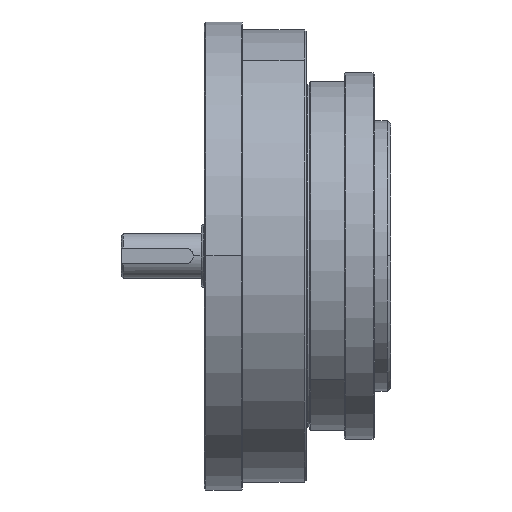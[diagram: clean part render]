
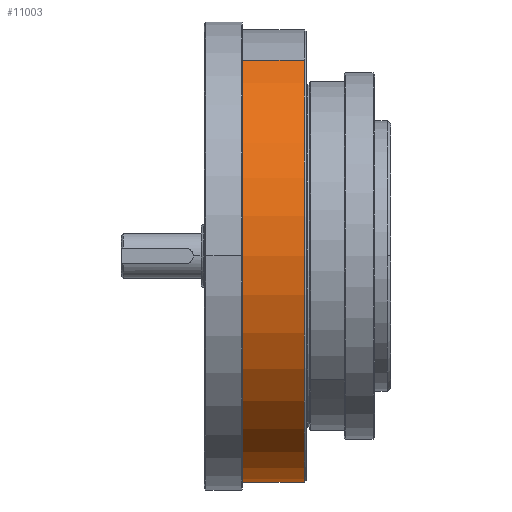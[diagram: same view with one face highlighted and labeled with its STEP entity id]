
A CAD part, top view. The second image highlights one B-rep face of the part: STEP entity #11003.
In plain terms, the highlighted cylindrical face has radius 71 mm (diameter 142 mm), a partial arc.
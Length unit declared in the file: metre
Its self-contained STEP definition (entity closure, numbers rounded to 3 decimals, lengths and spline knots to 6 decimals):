
#1798 = VERTEX_POINT ( 'NONE', #31979 ) ;
#2601 = FACE_OUTER_BOUND ( 'NONE', #51799, .T. ) ;
#5741 = CARTESIAN_POINT ( 'NONE',  ( 0.0574, 0.061488, 0.0355 ) ) ;
#6040 = VERTEX_POINT ( 'NONE', #50623 ) ;
#6907 = EDGE_CURVE ( 'NONE', #1798, #39703, #52528, .T. ) ;
#9250 = LINE ( 'NONE', #58365, #36377 ) ;
#10688 = AXIS2_PLACEMENT_3D ( 'NONE', #50117, #13222, #44772 ) ;
#11003 = ADVANCED_FACE ( 'NONE', ( #2601 ), #20199, .T. ) ;
#12044 = CARTESIAN_POINT ( 'NONE',  ( 0.0574, 0., 0. ) ) ;
#13222 = DIRECTION ( 'NONE',  ( 1., 0., 0. ) ) ;
#13553 = EDGE_CURVE ( 'NONE', #26840, #39703, #20311, .T. ) ;
#17674 = DIRECTION ( 'NONE',  ( -1., 0., 0. ) ) ;
#20199 = CYLINDRICAL_SURFACE ( 'NONE', #37531, 0.071 ) ;
#20311 = LINE ( 'NONE', #52453, #28224 ) ;
#21720 = DIRECTION ( 'NONE',  ( 1., 0., 0. ) ) ;
#24948 = DIRECTION ( 'NONE',  ( 1., 0., 0. ) ) ;
#25641 = DIRECTION ( 'NONE',  ( 1., 0., 0. ) ) ;
#25900 = AXIS2_PLACEMENT_3D ( 'NONE', #12044, #17674, #35835 ) ;
#26840 = VERTEX_POINT ( 'NONE', #27925 ) ;
#27726 = EDGE_CURVE ( 'NONE', #6040, #1798, #9250, .T. ) ;
#27925 = CARTESIAN_POINT ( 'NONE',  ( 0.0352, 0.061488, 0.0355 ) ) ;
#28224 = VECTOR ( 'NONE', #25641, 1. ) ;
#29097 = ORIENTED_EDGE ( 'NONE', *, *, #55405, .T. ) ;
#29108 = DIRECTION ( 'NONE',  ( 0., 0.866, 0.5 ) ) ;
#31604 = ORIENTED_EDGE ( 'NONE', *, *, #27726, .T. ) ;
#31979 = CARTESIAN_POINT ( 'NONE',  ( 0.0574, -0.061488, -0.0355 ) ) ;
#35835 = DIRECTION ( 'NONE',  ( 0., 0.866, 0.5 ) ) ;
#36377 = VECTOR ( 'NONE', #21720, 1. ) ;
#37420 = ORIENTED_EDGE ( 'NONE', *, *, #13553, .F. ) ;
#37531 = AXIS2_PLACEMENT_3D ( 'NONE', #47574, #24948, #29108 ) ;
#39219 = CIRCLE ( 'NONE', #10688, 0.071 ) ;
#39703 = VERTEX_POINT ( 'NONE', #5741 ) ;
#44772 = DIRECTION ( 'NONE',  ( 0., 0.866, 0.5 ) ) ;
#45422 = ORIENTED_EDGE ( 'NONE', *, *, #6907, .T. ) ;
#47574 = CARTESIAN_POINT ( 'NONE',  ( 0.084124, 0., 0. ) ) ;
#50117 = CARTESIAN_POINT ( 'NONE',  ( 0.0352, 0., 0. ) ) ;
#50623 = CARTESIAN_POINT ( 'NONE',  ( 0.0352, -0.061488, -0.0355 ) ) ;
#51799 = EDGE_LOOP ( 'NONE', ( #29097, #31604, #45422, #37420 ) ) ;
#52453 = CARTESIAN_POINT ( 'NONE',  ( 0.084124, 0.061488, 0.0355 ) ) ;
#52528 = CIRCLE ( 'NONE', #25900, 0.071 ) ;
#55405 = EDGE_CURVE ( 'NONE', #26840, #6040, #39219, .T. ) ;
#58365 = CARTESIAN_POINT ( 'NONE',  ( 0.084124, -0.061488, -0.0355 ) ) ;
